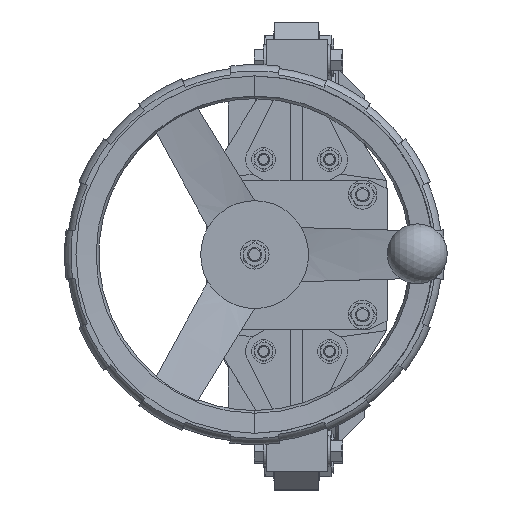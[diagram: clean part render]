
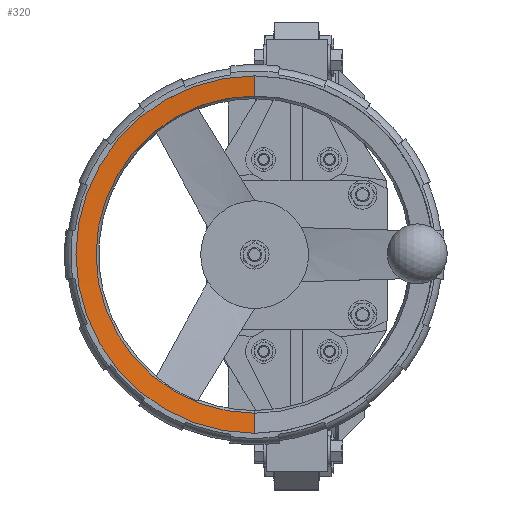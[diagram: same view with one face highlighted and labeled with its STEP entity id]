
A CAD part, top view. The second image highlights one B-rep face of the part: STEP entity #320.
In plain terms, the highlighted conical face has half-angle 85 degrees and reference radius 149 mm.
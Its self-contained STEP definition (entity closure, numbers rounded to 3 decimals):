
#320=ADVANCED_FACE('',(#2853),#2854,.F.);
#2853=FACE_OUTER_BOUND('',#8061,.T.);
#2854=CONICAL_SURFACE('',#8062,149.,1.484);
#8061=EDGE_LOOP('',(#14872,#14873,#14874,#14875));
#8062=AXIS2_PLACEMENT_3D('',#14876,#14877,#14878);
#14872=ORIENTED_EDGE('',*,*,#32852,.F.);
#14873=ORIENTED_EDGE('',*,*,#32161,.T.);
#14874=ORIENTED_EDGE('',*,*,#32848,.F.);
#14875=ORIENTED_EDGE('',*,*,#32853,.F.);
#14876=CARTESIAN_POINT('',(-35.,0.,676.465));
#14877=DIRECTION('',(0.,0.,1.));
#14878=DIRECTION('',(0.,-1.,0.));
#32161=EDGE_CURVE('',#40563,#40561,#40564,.T.);
#32848=EDGE_CURVE('',#41925,#40561,#41926,.T.);
#32852=EDGE_CURVE('',#40563,#41932,#41933,.T.);
#32853=EDGE_CURVE('',#41932,#41925,#41934,.T.);
#40561=VERTEX_POINT('',#50174);
#40563=VERTEX_POINT('',#50176);
#40564=CIRCLE('',#50177,132.253);
#41925=VERTEX_POINT('',#52348);
#41926=LINE('',#52349,#52350);
#41932=VERTEX_POINT('',#52365);
#41933=LINE('',#52366,#52367);
#41934=CIRCLE('',#52368,149.);
#50174=CARTESIAN_POINT('',(-35.,132.253,675.));
#50176=CARTESIAN_POINT('',(-35.,-132.253,675.));
#50177=AXIS2_PLACEMENT_3D('',#70819,#70820,#70821);
#52348=CARTESIAN_POINT('',(-35.,149.,676.465));
#52349=CARTESIAN_POINT('',(-35.,149.,676.465));
#52350=VECTOR('',#72117,1.);
#52365=CARTESIAN_POINT('',(-35.,-149.,676.465));
#52366=CARTESIAN_POINT('',(-35.,-149.,676.465));
#52367=VECTOR('',#72121,1.);
#52368=AXIS2_PLACEMENT_3D('',#72122,#72123,#72124);
#70819=CARTESIAN_POINT('',(-35.,0.,675.));
#70820=DIRECTION('',(0.,0.,-1.));
#70821=DIRECTION('',(0.,1.,0.));
#72117=DIRECTION('',(0.,-0.996,-0.087));
#72121=DIRECTION('',(0.,-0.996,0.087));
#72122=CARTESIAN_POINT('',(-35.,0.,676.465));
#72123=DIRECTION('',(0.,0.,-1.));
#72124=DIRECTION('',(0.,1.,0.));
